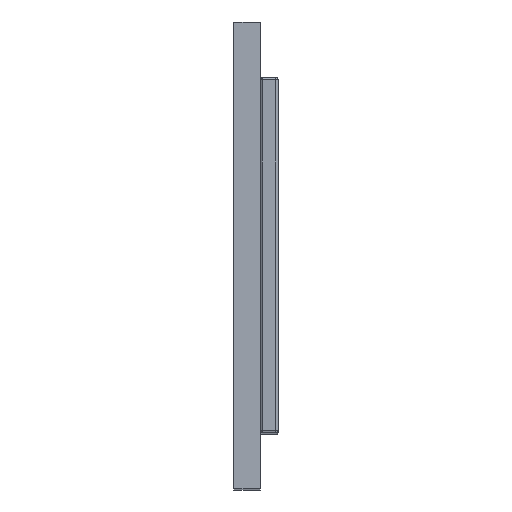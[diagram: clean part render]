
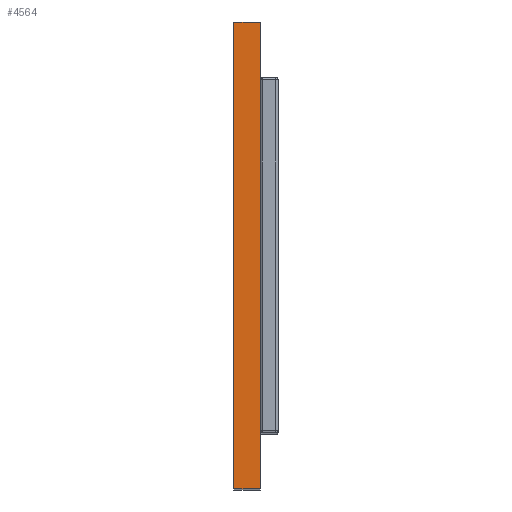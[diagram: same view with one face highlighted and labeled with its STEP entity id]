
A CAD part, top view. The second image highlights one B-rep face of the part: STEP entity #4564.
In plain terms, the highlighted planar face has unit normal (0, 0, 1).
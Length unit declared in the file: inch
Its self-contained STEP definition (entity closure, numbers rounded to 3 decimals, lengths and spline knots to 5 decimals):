
#124 = CARTESIAN_POINT ( 'NONE',  ( 0., 4.13386, 7.55906 ) ) ;
#166 = DIRECTION ( 'NONE',  ( 0., 0., -1. ) ) ;
#301 = CARTESIAN_POINT ( 'NONE',  ( 0., 4.13386, 7.55906 ) ) ;
#303 = LINE ( 'NONE', #1523, #4336 ) ;
#338 = EDGE_CURVE ( 'NONE', #2106, #3813, #726, .T. ) ;
#486 = LINE ( 'NONE', #3701, #4891 ) ;
#495 = VECTOR ( 'NONE', #1577, 39.37008 ) ;
#602 = EDGE_CURVE ( 'NONE', #5054, #3813, #486, .T. ) ;
#626 = CARTESIAN_POINT ( 'NONE',  ( 0., 0., 7.55906 ) ) ;
#726 = LINE ( 'NONE', #1152, #495 ) ;
#799 = VECTOR ( 'NONE', #1284, 39.37008 ) ;
#850 = FACE_OUTER_BOUND ( 'NONE', #4877, .T. ) ;
#942 = CARTESIAN_POINT ( 'NONE',  ( 0., 0., 7.55906 ) ) ;
#951 = ORIENTED_EDGE ( 'NONE', *, *, #602, .F. ) ;
#1152 = CARTESIAN_POINT ( 'NONE',  ( 0., 0., 7.55906 ) ) ;
#1284 = DIRECTION ( 'NONE',  ( 1., 0., 0. ) ) ;
#1523 = CARTESIAN_POINT ( 'NONE',  ( 0., 0., 7.55906 ) ) ;
#1577 = DIRECTION ( 'NONE',  ( 1., 0., 0. ) ) ;
#1629 = ORIENTED_EDGE ( 'NONE', *, *, #3930, .F. ) ;
#1632 = VERTEX_POINT ( 'NONE', #301 ) ;
#1870 = LINE ( 'NONE', #124, #799 ) ;
#2106 = VERTEX_POINT ( 'NONE', #626 ) ;
#2188 = PLANE ( 'NONE',  #2733 ) ;
#2733 = AXIS2_PLACEMENT_3D ( 'NONE', #942, #166, #4910 ) ;
#3012 = ORIENTED_EDGE ( 'NONE', *, *, #338, .T. ) ;
#3160 = CARTESIAN_POINT ( 'NONE',  ( 0.23622, 4.13386, 7.55906 ) ) ;
#3592 = ORIENTED_EDGE ( 'NONE', *, *, #4900, .T. ) ;
#3701 = CARTESIAN_POINT ( 'NONE',  ( 0.23622, 0., 7.55906 ) ) ;
#3813 = VERTEX_POINT ( 'NONE', #4572 ) ;
#3930 = EDGE_CURVE ( 'NONE', #1632, #5054, #1870, .T. ) ;
#4336 = VECTOR ( 'NONE', #5027, 39.37008 ) ;
#4564 = ADVANCED_FACE ( 'NONE', ( #850 ), #2188, .F. ) ;
#4572 = CARTESIAN_POINT ( 'NONE',  ( 0.23622, 0., 7.55906 ) ) ;
#4868 = DIRECTION ( 'NONE',  ( 0., -1., 0. ) ) ;
#4877 = EDGE_LOOP ( 'NONE', ( #3012, #951, #1629, #3592 ) ) ;
#4891 = VECTOR ( 'NONE', #4868, 39.37008 ) ;
#4900 = EDGE_CURVE ( 'NONE', #1632, #2106, #303, .T. ) ;
#4910 = DIRECTION ( 'NONE',  ( -1., 0., 0. ) ) ;
#5027 = DIRECTION ( 'NONE',  ( 0., -1., 0. ) ) ;
#5054 = VERTEX_POINT ( 'NONE', #3160 ) ;
